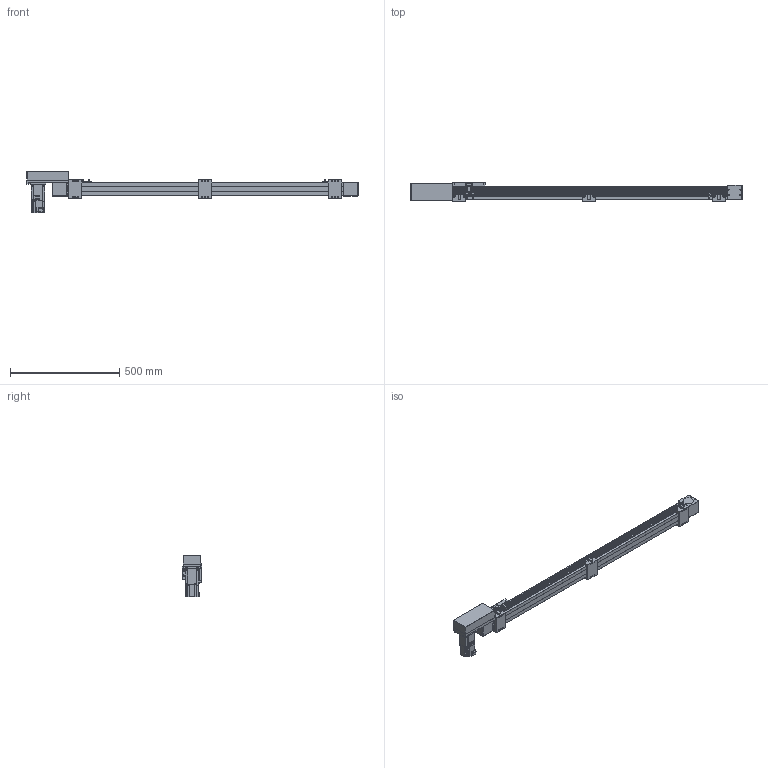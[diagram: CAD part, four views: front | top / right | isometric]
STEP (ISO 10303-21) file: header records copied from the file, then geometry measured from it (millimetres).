
FILE_DESCRIPTION(/* description */ ('STEP AP214'),/* implementation_level */ '2;1');
FILE_NAME(/* name */ 'SK60-P13-S1100-R-T40-C1-N(0)',/* time_stamp */ '2023-04-06T04:27:21+02:00',/* author */ ('License CC BY-ND 4.0'),/* organization */ ('CADENAS'),/* preprocessor_version */ 'ST-DEVELOPER v19.3',/* originating_system */ 'PARTsolutions',/* authorisation */ ' ');
FILE_SCHEMA (('AUTOMOTIVE_DESIGN {1 0 10303 214 3 1 1}'));
Length unit declared in the file: millimetre
Products named in the file (10): SK60-P13-S1100-R-T40-C1-N(0); PSC140-sensor; SK60-S450_seat; SK60-S450-BL-C1_slider; SK60_body3; SK60_body6; SK60-BL_body2; T40-p1; SK60-R_fb; SK60-S1100-R-C1_body
Assembly tree (17 placements, depth 2):
  SK60-P13-S1100-R-T40-C1-N(0)
    PSC140-sensor  x3
    SK60-S450_seat  x3
    SK60-S450-BL-C1_slider
    SK60_body3  x3
    SK60_body6  x2
    SK60-BL_body2  x2
    T40-p1
    SK60-R_fb
    SK60-S1100-R-C1_body
Bounding box: 1520.5 x 90 x 189.7 mm (x, y, z)
Volume: 5992892.9 mm3; surface area: 751071.7 mm2
Topology: 17 solids, 17 shells, 854 faces, 2146 edges, 1413 vertices
Faces by surface type: plane 548, cylinder 278, cone 26, torus 2
Full cylindrical faces by diameter (mm): 2.8 x3, 3.3 x4, 4 x2, 4.5 x30, 4.6 x3, 4.917 x20, 5 x6, 5.478 x4, 5.5 x23, 6.5 x6, 7 x2, 8 x4, 8.5 x4, 9.988 x4, 10 x12, 14 x1, 47 x3, 50 x2
Entity records: 18663 total; most frequent: DIRECTION 3186, CARTESIAN_POINT 3151, ORIENTED_EDGE 2940, EDGE_CURVE 1470, AXIS2_PLACEMENT_3D 1069, LINE 1048, VECTOR 1048, VERTEX_POINT 1034
